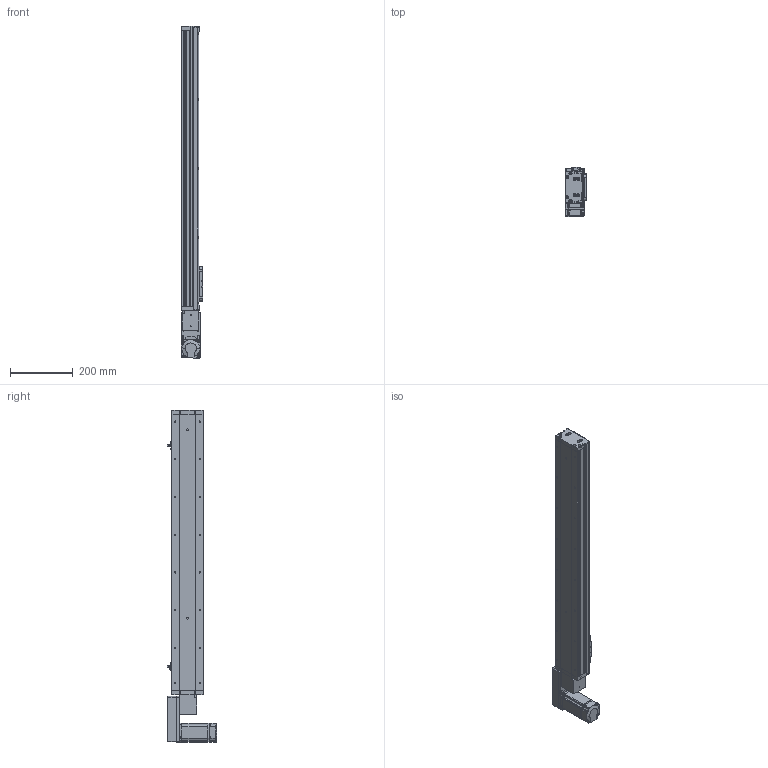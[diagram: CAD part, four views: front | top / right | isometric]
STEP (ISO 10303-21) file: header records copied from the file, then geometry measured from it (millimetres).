
FILE_DESCRIPTION (( 'STEP AP214' ), '1' );
FILE_NAME ('KSD100B-S700-MLB-CR.STEP', '2019-09-06T07:51:27', ( '微软用户' ), ( '微软中国' ), 'SwSTEP 2.0', 'SolidWorks 2014', '' );
FILE_SCHEMA (( 'AUTOMOTIVE_DESIGN' ));
Length unit declared in the file: millimetre
Products named in the file (16): 100宽侧板700行程同步带; EGH15CA导轨100宽模组全封闭700行程同步带; 100宽底板全封闭700行程同步带; KSD100B-S700-MLB-CR; MHMD042G1CA_2_03; 悵誘欶奻狟殏; 100宽马达安装板连板上下折丝杆同步带; 感应片100宽全封闭; U倰嫖萇EEㄜSX672; 100宽马达安装板同步带左; 100遵鎮湛假蚾啣蜊; 100宽端板同步带全封闭; 100宽滚珠螺姆安装板1防护罩; 100宽滚珠螺姆安装板1; 100遵裔啣揤啣; 100遵裔啣700俴最
Assembly tree (18 placements, depth 2):
  KSD100B-S700-MLB-CR
    100宽底板全封闭700行程同步带
    EGH15CA导轨100宽模组全封闭700行程同步带
    100宽侧板700行程同步带  x2
    100遵裔啣700俴最
    100遵裔啣揤啣  x2
    100宽滚珠螺姆安装板1
    100宽滚珠螺姆安装板1防护罩
    100宽端板同步带全封闭
    100遵鎮湛假蚾啣蜊
    100宽马达安装板同步带左
    U倰嫖萇EEㄜSX672  x2
    感应片100宽全封闭
    100宽马达安装板连板上下折丝杆同步带
    悵誘欶奻狟殏
    MHMD042G1CA_2_03
Bounding box: 70 x 156.2 x 1057 mm (x, y, z)
Volume: 2130970.6 mm3; surface area: 941787.8 mm2
Topology: 18 solids, 19 shells, 1847 faces, 5166 edges, 3319 vertices
Faces by surface type: cylinder 809, plane 797, cone 219, bspline 22
Entity records: 71006 total; most frequent: CARTESIAN_POINT 10986, DIRECTION 9560, ORIENTED_EDGE 8972, EDGE_CURVE 4558, AXIS2_PLACEMENT_3D 3433, VERTEX_POINT 3025, LINE 2694, VECTOR 2694
